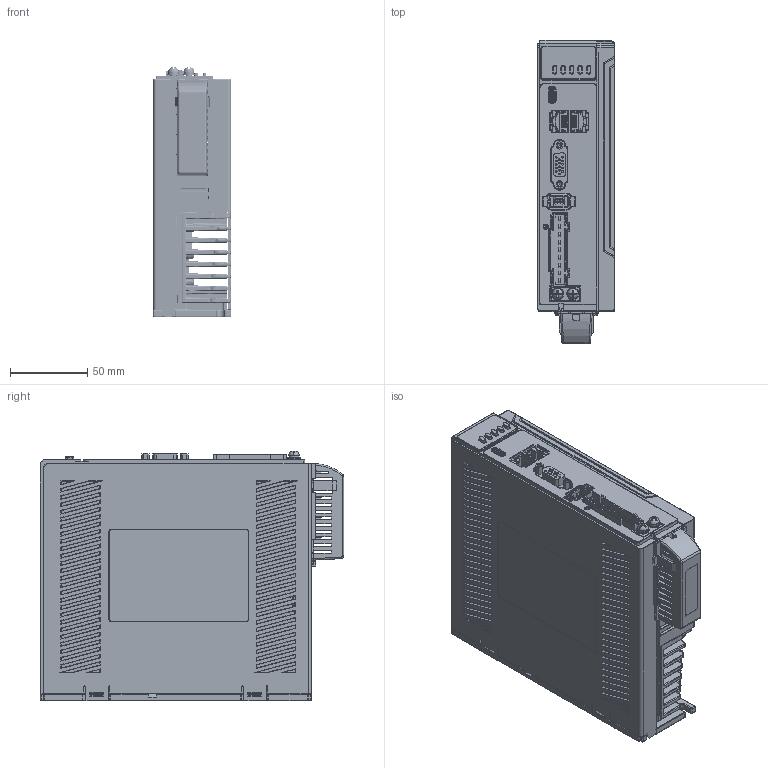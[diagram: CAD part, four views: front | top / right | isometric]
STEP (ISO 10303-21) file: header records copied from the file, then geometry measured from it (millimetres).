
FILE_DESCRIPTION((''),'2;1');
FILE_NAME('L7N_750_ASM','2023-04-11T',('Administrator'),(''),'PRO/ENGINEER BY PARAMETRIC TECHNOLOGY CORPORATION, 2010280','PRO/ENGINEER BY PARAMETRIC TECHNOLOGY CORPORATION, 2010280','');
FILE_SCHEMA(('CONFIG_CONTROL_DESIGN','SHAPE_APPEARANCE_LAYERS_GROUPS'));
Products named in the file (31): M3X8_GB818_9_1_1; D3_GB9074_26_11_1_1; D3_GB9074_24_14_1_1; M3X8_GB9074_4_ASM_1_ASM_1_ASM_A_ASM; M4X10_GB818_1_1_1; D4_GB9074_26_1_1_1; D4_GB9074_24_1_1_1; M4X10_GB9074_4_ASM_1_ASM_1_ASM__ASM; DB_L7_750_2_1; PCB_L8L_2; 9P___1_1; JDDZ____1_1; PCB_SMALL_L7__1; FUS606_REF_1; C-5788516-1-A-3D_Z_1; RJ45_2X1__1_1; MANIFOLD_SOLID_BREP_55389_1; MANIFOLD_SOLID_BREP_55877_1; MANIFOLD_SOLID_BREP_56365_1; MANIFOLD_SOLID_BREP_56481_1; MANIFOLD_SOLID_BREP_56597_1; HDR15F_1_ASM_3_ASM_ASM_ASM; PCB_L8L_ASM_7_ASM_ASM_ASM; YKL_1; AJ_190117_____1_3; QWA_3_2; AWQ1_2_1; ASS_ASM_2_ASM_3_ASM_ASM_ASM; L7N-750-GZ_2; ASM0001_L7P_ASM_27_ASM_ASM_ASM; L7N_750_ASM
Assembly tree (33 placements, depth 5):
  L7N_750_ASM
    ASM0001_L7P_ASM_27_ASM_ASM_ASM
      M3X8_GB9074_4_ASM_1_ASM_1_ASM_A_ASM  x3
        M3X8_GB818_9_1_1
        D3_GB9074_26_11_1_1
        D3_GB9074_24_14_1_1
      M4X10_GB9074_4_ASM_1_ASM_1_ASM__ASM  x2
        M4X10_GB818_1_1_1
        D4_GB9074_26_1_1_1
        D4_GB9074_24_1_1_1
      DB_L7_750_2_1
      PCB_L8L_ASM_7_ASM_ASM_ASM
        PCB_L8L_2
        9P___1_1
        JDDZ____1_1
        PCB_SMALL_L7__1
        FUS606_REF_1
        C-5788516-1-A-3D_Z_1
        RJ45_2X1__1_1
        HDR15F_1_ASM_3_ASM_ASM_ASM
          MANIFOLD_SOLID_BREP_55389_1
          MANIFOLD_SOLID_BREP_55877_1
          MANIFOLD_SOLID_BREP_56365_1
          MANIFOLD_SOLID_BREP_56481_1
          MANIFOLD_SOLID_BREP_56597_1
      YKL_1
      AJ_190117_____1_3
      ASS_ASM_2_ASM_3_ASM_ASM_ASM
        QWA_3_2
        AWQ1_2_1
      L7N-750-GZ_2
Bounding box: 50 x 196 x 161.49 mm (x, y, z)
Volume: 450305.4 mm3; surface area: 348074.1 mm2
Topology: 35 solids, 35 shells, 7323 faces, 19166 edges, 11608 vertices
Faces by surface type: plane 3553, cylinder 2360, bspline 619, sphere 332, torus 296, cone 119, extrusion 40, revolution 4
Entity records: 244594 total; most frequent: CARTESIAN_POINT 73513, ORIENTED_EDGE 36920, DIRECTION 33104, EDGE_CURVE 18460, VECTOR 12214, LINE 12174, VERTEX_POINT 11362, AXIS2_PLACEMENT_3D 10443
